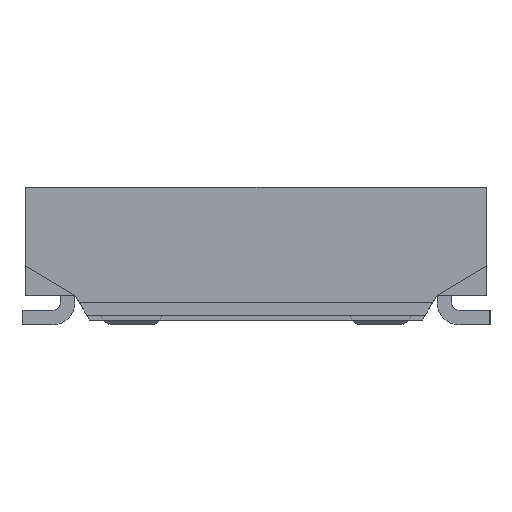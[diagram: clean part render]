
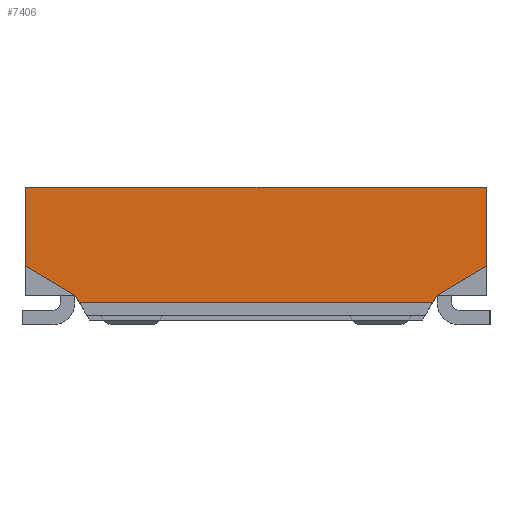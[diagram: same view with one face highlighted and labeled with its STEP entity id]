
A CAD part, left-side view. The second image highlights one B-rep face of the part: STEP entity #7406.
In plain terms, the highlighted planar face has unit normal (-1, 0, 0).
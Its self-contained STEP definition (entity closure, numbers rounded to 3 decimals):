
#7347=AXIS2_PLACEMENT_3D('Plane Axis2P3D',#7344,#7345,#7346) ;
#7313=CARTESIAN_POINT('Vertex',(1.5,0.717,0.09)) ;
#7329=CARTESIAN_POINT('Vertex',(1.5,-0.717,0.09)) ;
#7332=CARTESIAN_POINT('Line Origine',(1.5,0.,0.09)) ;
#7344=CARTESIAN_POINT('Axis2P3D Location',(1.5,0.,0.)) ;
#7349=CARTESIAN_POINT('Line Origine',(1.5,-0.726,0.105)) ;
#7353=CARTESIAN_POINT('Vertex',(1.5,-0.735,0.12)) ;
#7356=CARTESIAN_POINT('Line Origine',(1.5,-0.835,0.18)) ;
#7360=CARTESIAN_POINT('Vertex',(1.5,-0.935,0.24)) ;
#7363=CARTESIAN_POINT('Line Origine',(1.5,-0.935,0.4)) ;
#7367=CARTESIAN_POINT('Vertex',(1.5,-0.935,0.56)) ;
#7370=CARTESIAN_POINT('Line Origine',(1.5,0.,0.56)) ;
#7374=CARTESIAN_POINT('Vertex',(1.5,0.935,0.56)) ;
#7377=CARTESIAN_POINT('Line Origine',(1.5,0.935,0.4)) ;
#7381=CARTESIAN_POINT('Vertex',(1.5,0.935,0.24)) ;
#7384=CARTESIAN_POINT('Line Origine',(1.5,0.835,0.18)) ;
#7388=CARTESIAN_POINT('Vertex',(1.5,0.735,0.12)) ;
#7391=CARTESIAN_POINT('Line Origine',(1.5,0.726,0.105)) ;
#7333=DIRECTION('Vector Direction',(0.,-1.,0.)) ;
#7345=DIRECTION('Axis2P3D Direction',(1.,0.,-0.)) ;
#7346=DIRECTION('Axis2P3D XDirection',(0.,1.,0.)) ;
#7350=DIRECTION('Vector Direction',(0.,-0.514,0.857)) ;
#7357=DIRECTION('Vector Direction',(0.,0.857,-0.514)) ;
#7364=DIRECTION('Vector Direction',(0.,0.,1.)) ;
#7371=DIRECTION('Vector Direction',(0.,1.,0.)) ;
#7378=DIRECTION('Vector Direction',(0.,0.,-1.)) ;
#7385=DIRECTION('Vector Direction',(0.,0.857,0.514)) ;
#7392=DIRECTION('Vector Direction',(0.,-0.514,-0.857)) ;
#7334=VECTOR('Line Direction',#7333,1.) ;
#7351=VECTOR('Line Direction',#7350,1.) ;
#7358=VECTOR('Line Direction',#7357,1.) ;
#7365=VECTOR('Line Direction',#7364,1.) ;
#7372=VECTOR('Line Direction',#7371,1.) ;
#7379=VECTOR('Line Direction',#7378,1.) ;
#7386=VECTOR('Line Direction',#7385,1.) ;
#7393=VECTOR('Line Direction',#7392,1.) ;
#7397=ORIENTED_EDGE('',*,*,#7336,.T.) ;
#7398=ORIENTED_EDGE('',*,*,#7355,.F.) ;
#7399=ORIENTED_EDGE('',*,*,#7362,.F.) ;
#7400=ORIENTED_EDGE('',*,*,#7369,.F.) ;
#7401=ORIENTED_EDGE('',*,*,#7376,.F.) ;
#7402=ORIENTED_EDGE('',*,*,#7383,.F.) ;
#7403=ORIENTED_EDGE('',*,*,#7390,.F.) ;
#7404=ORIENTED_EDGE('',*,*,#7395,.F.) ;
#7406=ADVANCED_FACE('\X2\FF8AFF9FFF70FF82\X0\ \X2\FF8EFF9EFF83FF9EFF68FF70\X0\',(#7405),#7348,.F.) ;
#7336=EDGE_CURVE('',#7314,#7330,#7335,.T.) ;
#7355=EDGE_CURVE('',#7354,#7330,#7352,.F.) ;
#7362=EDGE_CURVE('',#7361,#7354,#7359,.T.) ;
#7369=EDGE_CURVE('',#7368,#7361,#7366,.F.) ;
#7376=EDGE_CURVE('',#7375,#7368,#7373,.F.) ;
#7383=EDGE_CURVE('',#7382,#7375,#7380,.F.) ;
#7390=EDGE_CURVE('',#7389,#7382,#7387,.T.) ;
#7395=EDGE_CURVE('',#7314,#7389,#7394,.F.) ;
#7396=EDGE_LOOP('',(#7397,#7398,#7399,#7400,#7401,#7402,#7403,#7404)) ;
#7405=FACE_OUTER_BOUND('',#7396,.T.) ;
#7335=LINE('Line',#7332,#7334) ;
#7352=LINE('Line',#7349,#7351) ;
#7359=LINE('Line',#7356,#7358) ;
#7366=LINE('Line',#7363,#7365) ;
#7373=LINE('Line',#7370,#7372) ;
#7380=LINE('Line',#7377,#7379) ;
#7387=LINE('Line',#7384,#7386) ;
#7394=LINE('Line',#7391,#7393) ;
#7348=PLANE('Plane',#7347) ;
#7314=VERTEX_POINT('',#7313) ;
#7330=VERTEX_POINT('',#7329) ;
#7354=VERTEX_POINT('',#7353) ;
#7361=VERTEX_POINT('',#7360) ;
#7368=VERTEX_POINT('',#7367) ;
#7375=VERTEX_POINT('',#7374) ;
#7382=VERTEX_POINT('',#7381) ;
#7389=VERTEX_POINT('',#7388) ;
